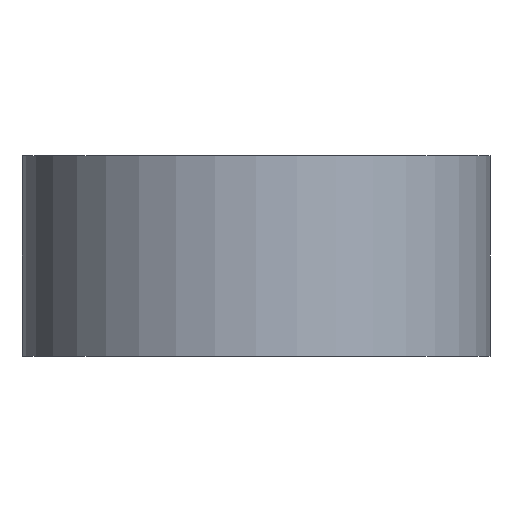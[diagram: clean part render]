
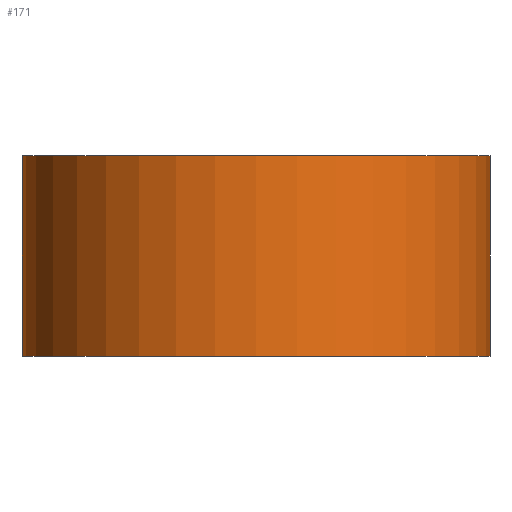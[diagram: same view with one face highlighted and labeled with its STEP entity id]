
A CAD part, front view. The second image highlights one B-rep face of the part: STEP entity #171.
In plain terms, the highlighted cylindrical face has radius 7 mm (diameter 14 mm), a partial arc.
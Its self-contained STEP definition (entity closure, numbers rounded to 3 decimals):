
#32=FACE_OUTER_BOUND('',#45,.T.);
#45=EDGE_LOOP('',(#145,#146,#147,#148));
#57=LINE('',#295,#68);
#59=LINE('',#303,#70);
#68=VECTOR('',#245,10.);
#70=VECTOR('',#255,10.);
#76=CIRCLE('',#196,7.);
#81=CIRCLE('',#205,7.);
#87=VERTEX_POINT('',#277);
#88=VERTEX_POINT('',#279);
#92=VERTEX_POINT('',#291);
#95=VERTEX_POINT('',#301);
#103=EDGE_CURVE('',#87,#88,#76,.T.);
#111=EDGE_CURVE('',#92,#88,#57,.T.);
#114=EDGE_CURVE('',#95,#92,#81,.T.);
#115=EDGE_CURVE('',#95,#87,#59,.T.);
#145=ORIENTED_EDGE('',*,*,#114,.T.);
#146=ORIENTED_EDGE('',*,*,#111,.T.);
#147=ORIENTED_EDGE('',*,*,#103,.F.);
#148=ORIENTED_EDGE('',*,*,#115,.F.);
#163=CYLINDRICAL_SURFACE('',#204,7.);
#171=ADVANCED_FACE('',(#32),#163,.T.);
#196=AXIS2_PLACEMENT_3D('',#280,#229,#230);
#204=AXIS2_PLACEMENT_3D('',#300,#251,#252);
#205=AXIS2_PLACEMENT_3D('',#302,#253,#254);
#229=DIRECTION('center_axis',(0.,0.,1.));
#230=DIRECTION('ref_axis',(-1.,0.,0.));
#245=DIRECTION('',(0.,0.,1.));
#251=DIRECTION('center_axis',(0.,0.,1.));
#252=DIRECTION('ref_axis',(-1.,0.,0.));
#253=DIRECTION('center_axis',(0.,0.,1.));
#254=DIRECTION('ref_axis',(-1.,0.,0.));
#255=DIRECTION('',(0.,0.,1.));
#277=CARTESIAN_POINT('',(0.,0.,6.));
#279=CARTESIAN_POINT('',(14.,0.,6.));
#280=CARTESIAN_POINT('Origin',(7.,0.,6.));
#291=CARTESIAN_POINT('',(14.,0.,0.));
#295=CARTESIAN_POINT('',(14.,0.,0.));
#300=CARTESIAN_POINT('Origin',(7.,0.,0.));
#301=CARTESIAN_POINT('',(0.,0.,0.));
#302=CARTESIAN_POINT('Origin',(7.,0.,0.));
#303=CARTESIAN_POINT('',(0.,0.,0.));
